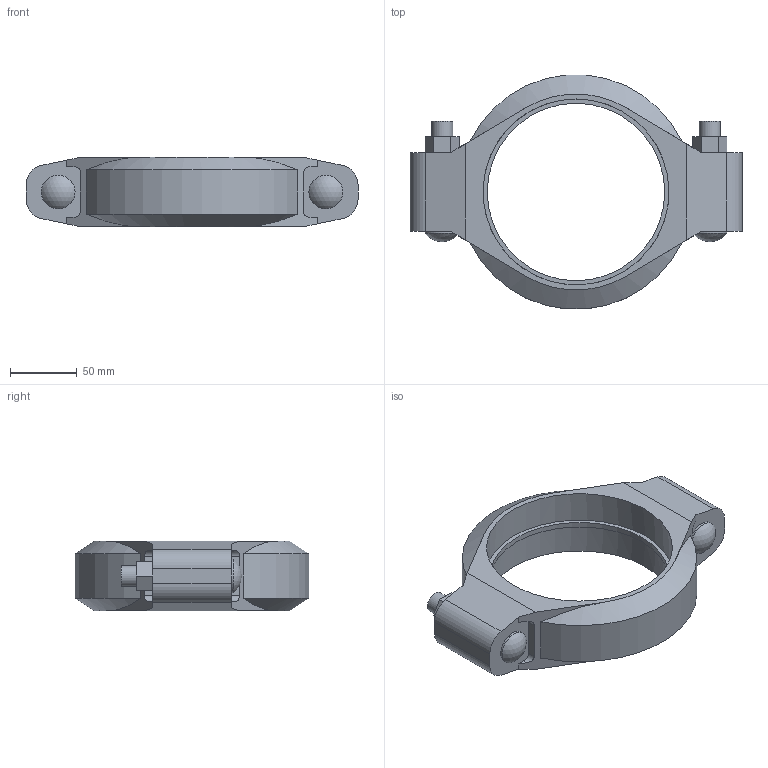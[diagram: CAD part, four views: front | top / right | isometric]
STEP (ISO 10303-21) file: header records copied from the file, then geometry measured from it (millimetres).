
FILE_DESCRIPTION(/* description */ ('VIC COUPLING STYLE 07 RIGID','CAx-IF Rec.Pracs.---Representation and Presentation of Product Manufacturing Information (PMI)---4.0---2014-10-13'),/* implementation_level */ '2;1');
FILE_NAME(/* name */ 'C:\Users\kkamble\Desktop\KIRAN\2022\Updated Couplings\007\Victaulic_IPS_Coupling Rigid_Style 07 (OGS)\Victaulic_IPS_Coupling Rigid_Style 07 (OGS)_05.0 (139.7) (125).stp',/* time_stamp */ '2022-03-25T09:56:41+05:00',/* author */ ('jheald'),/* organization */ ('Victaulic'),/* preprocessor_version */ 'ST-DEVELOPER v17.2',/* originating_system */ 'Autodesk Inventor 2019',/* authorisation */ '');
FILE_SCHEMA (('AP242_MANAGED_MODEL_BASED_3D_ENGINEERING_MIM_LF { 1 0 10303 442 1 1 4 }'));
Length unit declared in the file: inch
Products named in the file (1): 07-05.0 (139.7)
Bounding box: 249.43 x 175.62 x 52.58 mm (x, y, z)
Volume: 635922.3 mm3; surface area: 99299.1 mm2
Topology: 1 solids, 3 shells, 97 faces, 255 edges, 164 vertices
Faces by surface type: plane 62, cylinder 29, cone 4, sphere 2
Full cylindrical faces by diameter (mm): 15.875 x2, 25.4 x2, 133.35 x1, 139.7 x2
Entity records: 3236 total; most frequent: CARTESIAN_POINT 550, DIRECTION 545, ORIENTED_EDGE 510, EDGE_CURVE 255, AXIS2_PLACEMENT_3D 187, LINE 171, VECTOR 171, VERTEX_POINT 164
